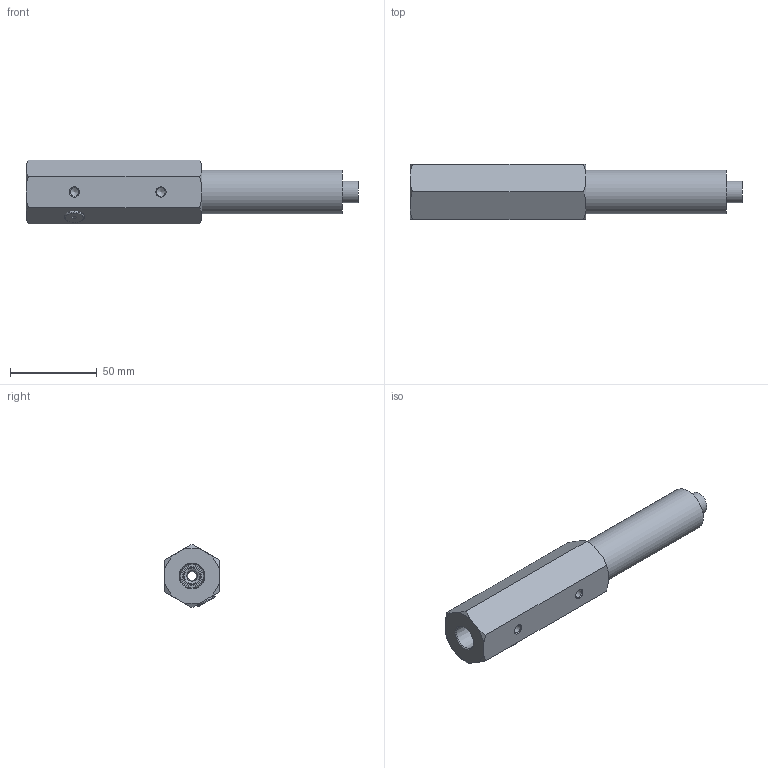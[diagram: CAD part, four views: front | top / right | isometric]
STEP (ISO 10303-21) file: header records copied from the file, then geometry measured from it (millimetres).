
FILE_DESCRIPTION (( 'STEP AP214' ), '1' );
FILE_NAME ('SSV4-NPT-UPDATE.STEP', '2025-09-15T17:57:35', ( '' ), ( '' ), 'SwSTEP 2.0', 'SolidWorks 2025', '' );
FILE_SCHEMA (( 'AUTOMOTIVE_DESIGN' ));
Length unit declared in the file: inch
Products named in the file (4): SSV4-NPT-UPDATE; GS-ST38; 1013; SSV BODY HEX PLUG
Assembly tree (3 placements, depth 2):
  SSV4-NPT-UPDATE
    1013
    GS-ST38
    SSV BODY HEX PLUG
Bounding box: 191.8 x 31.75 x 36.66 mm (x, y, z)
Volume: 110295.1 mm3; surface area: 28911.6 mm2
Topology: 3 solids, 3 shells, 92 faces, 208 edges, 131 vertices
Faces by surface type: plane 44, cone 26, cylinder 20, torus 2
Full cylindrical faces by diameter (mm): 4.978 x1, 5 x2, 8.8 x1, 9.76 x1, 10.058 x1, 11 x2, 11.125 x1, 11.45 x1, 12.7 x2, 14.275 x1, 14.3 x5, 15 x1, 25.4 x1
Entity records: 2488 total; most frequent: CARTESIAN_POINT 522, DIRECTION 401, ORIENTED_EDGE 292, AXIS2_PLACEMENT_3D 163, EDGE_LOOP 158, EDGE_CURVE 146, VERTEX_POINT 118, FACE_OUTER_BOUND 114
